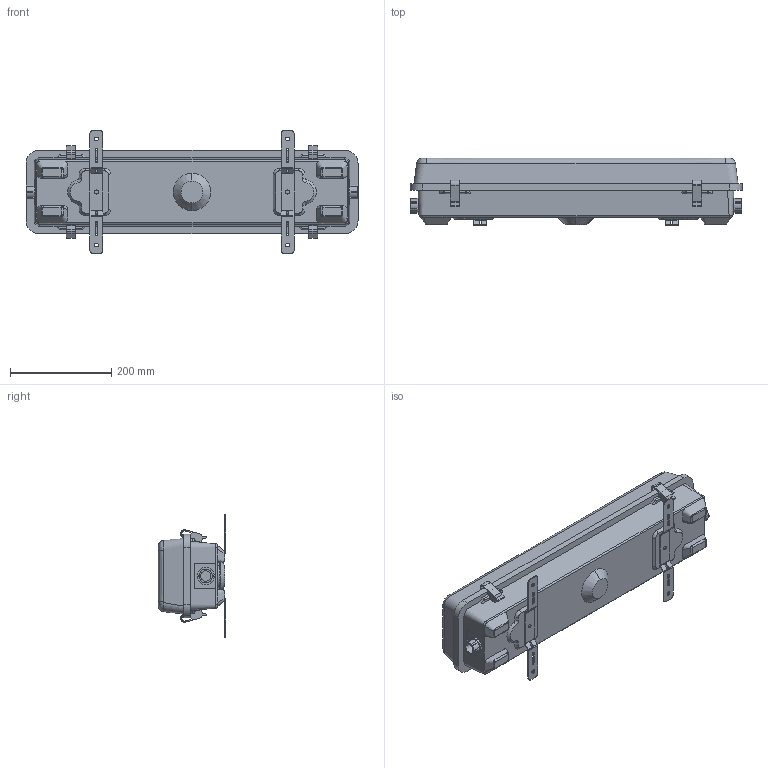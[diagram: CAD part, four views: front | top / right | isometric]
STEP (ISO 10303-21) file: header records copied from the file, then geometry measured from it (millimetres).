
FILE_DESCRIPTION (( 'STEP AP214' ), '1' );
FILE_NAME ('HALP-24-2L-LED-SFC.STEP', '2015-03-13T13:37:21', ( '' ), ( '' ), 'SwSTEP 2.0', 'SolidWorks 2015', '' );
FILE_SCHEMA (( 'AUTOMOTIVE_DESIGN' ));
Length unit declared in the file: millimetre
Products named in the file (3): surface bracket; HALP-24-2L Light; HALP-24-2L-LED-SFC
Assembly tree (3 placements, depth 2):
  HALP-24-2L-LED-SFC
    HALP-24-2L Light
    surface bracket  x2
Bounding box: 657.23 x 133.99 x 243.84 mm (x, y, z)
Volume: 10555508.7 mm3; surface area: 426251 mm2
Topology: 3 solids, 3 shells, 441 faces, 1266 edges, 818 vertices
Faces by surface type: plane 223, cylinder 114, bspline 80, cone 16, sphere 8
Entity records: 23015 total; most frequent: CARTESIAN_POINT 13560, ORIENTED_EDGE 2152, DIRECTION 1729, EDGE_CURVE 1076, VERTEX_POINT 710, VECTOR 583, LINE 583, AXIS2_PLACEMENT_3D 573
